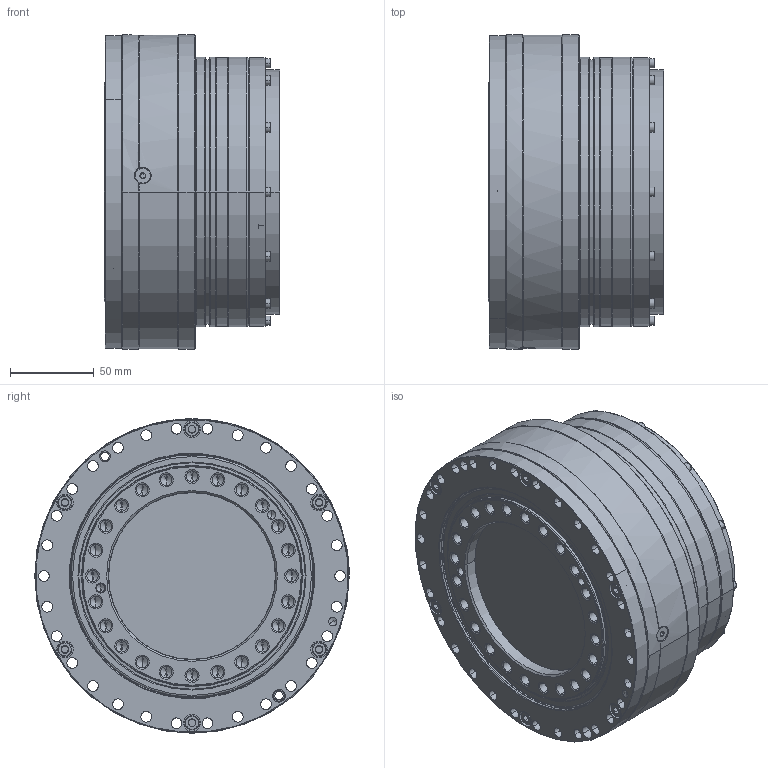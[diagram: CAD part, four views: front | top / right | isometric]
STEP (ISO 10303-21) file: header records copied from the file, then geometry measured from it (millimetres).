
FILE_DESCRIPTION((''),'2;1');
FILE_NAME('185_000G_P24_0801_ASM_ASM','2020-04-21T',('menyko'),(''),'PRO/ENGINEER BY PARAMETRIC TECHNOLOGY CORPORATION, 2016240','PRO/ENGINEER BY PARAMETRIC TECHNOLOGY CORPORATION, 2016240','');
FILE_SCHEMA(('CONFIG_CONTROL_DESIGN'));
Length unit declared in the file: millimetre
Products named in the file (38): 185_011G_0786_AF0_2; MANIFOLD_SOLID_BREP_17623; 185_003G_0426_AF0_2_ASM; 185_007G_0365_2; 185_001G_0321_AF0_2; ZATKA-FESTO-B-M7-M7X1_2; MANIFOLD_SOLID_BREP_30198; BREP_WITH_VOIDS_30411; GUF_DIN3761AS-132X145X5-FPM_2_ASM; ZATKA-GA100X10_AF0_2; SKR_DIN912-M5X12-129CIE_2; SKR_DIN912-M5X12-129CIE_AF0_2; SKR_DIN912-M5X12-129CIE_AF1_2; SKR_DIN912-M5X12-129CIE_AF2_2; SKR_DIN912-M5X12-129CIE_AF3_2; ZATKA-GA32X5_AF0_2; 185_001G_PA32_AF0_2; O_KRUZOK-140X1_5-NBR70_AF0_2; SKR_DIN912-M3X14-129_AF0_2; SKR_DIN912-M3X14-129_AF1_2; SKR_DIN912-M3X14-129_AF2_2; SKR_DIN912-M3X14-129_AF3_2; SKR_DIN912-M3X14-129_AF4_2; SKR_DIN912-M3X14-129_AF5_2; SKR_DIN912-M3X14-129_AF6_2; SKR_DIN912-M3X14-129_AF7_2; SKR_DIN912-M3X14-129_AF8_2; SKR_DIN912-M3X14-129_AF9_2; SKR_DIN912-M3X14-129_AF10_2; SKR_DIN912-M3X14-129_AF11_2; MANIFOLD_SOLID_BREP_158687; MANIFOLD_SOLID_BREP_158902; MANIFOLD_SOLID_BREP_159249; MANIFOLD_SOLID_BREP_159462; MANIFOLD_SOLID_BREP_159629; GUF_MSS1-38X52X8_5X10_5-FKM_AF0_ASM; 185_000G_P24_0801_ASM_2_ASM; 185_000G_P24_0801_ASM_ASM
Assembly tree (39 placements, depth 4):
  185_000G_P24_0801_ASM_ASM
    185_000G_P24_0801_ASM_2_ASM
      185_011G_0786_AF0_2
      185_003G_0426_AF0_2_ASM
        MANIFOLD_SOLID_BREP_17623
      185_007G_0365_2
      185_001G_0321_AF0_2
      ZATKA-FESTO-B-M7-M7X1_2  x2
      GUF_DIN3761AS-132X145X5-FPM_2_ASM
        MANIFOLD_SOLID_BREP_30198
        BREP_WITH_VOIDS_30411
      ZATKA-GA100X10_AF0_2
      SKR_DIN912-M5X12-129CIE_2  x2
      SKR_DIN912-M5X12-129CIE_AF0_2
      SKR_DIN912-M5X12-129CIE_AF1_2
      SKR_DIN912-M5X12-129CIE_AF2_2
      SKR_DIN912-M5X12-129CIE_AF3_2
      ZATKA-GA32X5_AF0_2
      185_001G_PA32_AF0_2
      O_KRUZOK-140X1_5-NBR70_AF0_2
      SKR_DIN912-M3X14-129_AF0_2
      SKR_DIN912-M3X14-129_AF1_2
      SKR_DIN912-M3X14-129_AF2_2
      SKR_DIN912-M3X14-129_AF3_2
      SKR_DIN912-M3X14-129_AF4_2
      SKR_DIN912-M3X14-129_AF5_2
      SKR_DIN912-M3X14-129_AF6_2
      SKR_DIN912-M3X14-129_AF7_2
      SKR_DIN912-M3X14-129_AF8_2
      SKR_DIN912-M3X14-129_AF9_2
      SKR_DIN912-M3X14-129_AF10_2
      SKR_DIN912-M3X14-129_AF11_2
      GUF_MSS1-38X52X8_5X10_5-FKM_AF0_ASM
        MANIFOLD_SOLID_BREP_158687
        MANIFOLD_SOLID_BREP_158902
        MANIFOLD_SOLID_BREP_159249
        MANIFOLD_SOLID_BREP_159462
        MANIFOLD_SOLID_BREP_159629
Bounding box: 104.9 x 188 x 188 mm (x, y, z)
Volume: 777970.9 mm3; surface area: 339181.1 mm2
Topology: 35 solids, 36 shells, 1724 faces, 4420 edges, 2773 vertices
Faces by surface type: cone 690, cylinder 519, plane 339, torus 172, revolution 4
Entity records: 53541 total; most frequent: DIRECTION 10248, CARTESIAN_POINT 10019, ORIENTED_EDGE 8388, AXIS2_PLACEMENT_3D 4436, EDGE_CURVE 4194, VERTEX_POINT 2703, CIRCLE 2664, EDGE_LOOP 1999
